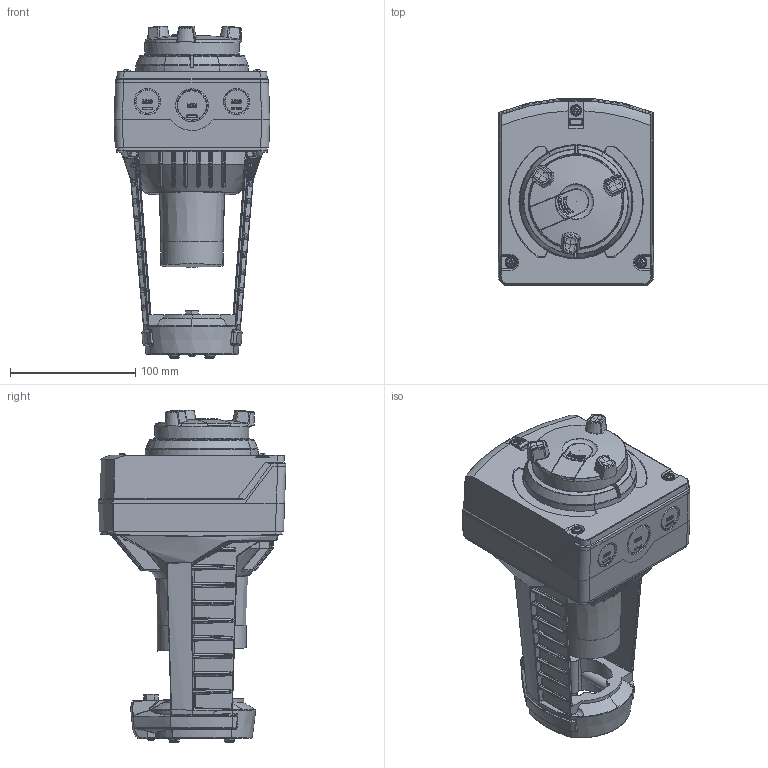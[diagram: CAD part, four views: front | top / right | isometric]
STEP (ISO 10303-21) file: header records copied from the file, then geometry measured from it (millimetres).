
FILE_DESCRIPTION(/* description */ (''),/* implementation_level */ '2;1');
FILE_NAME(/* name */ 'SAV_simplified.stp',/* time_stamp */ '2014-06-17T17:01:31+02:00',/* author */ (''),/* organization */ (''),/* preprocessor_version */ 'ST-DEVELOPER v11',/* originating_system */ 'SIEMENS UGS NX 6.0',/* authorisation */ '');
FILE_SCHEMA (('AUTOMOTIVE_DESIGN { 1 0 10303 214 1 1 1 1 }'));
Products named in the file (1): 8000078213_01
Bounding box: 124 x 149.52 x 264.61 mm (x, y, z)
Volume: 1856614.5 mm3; surface area: 152314.7 mm2
Topology: 1 solids, 21 shells, 3227 faces, 8058 edges, 4712 vertices
Faces by surface type: bspline 1591, plane 689, cylinder 446, sphere 213, cone 110, torus 102, extrusion 73, revolution 3
Full cylindrical faces by diameter (mm): 6 x1, 9 x3, 91 x1
Entity records: 174212 total; most frequent: CARTESIAN_POINT 90552, ORIENTED_EDGE 15606, DIRECTION 9777, EDGE_CURVE 7803, VERTEX_POINT 4690, AXIS2_PLACEMENT_3D 4048, B_SPLINE_CURVE_WITH_KNOTS 3752, EDGE_LOOP 3300
